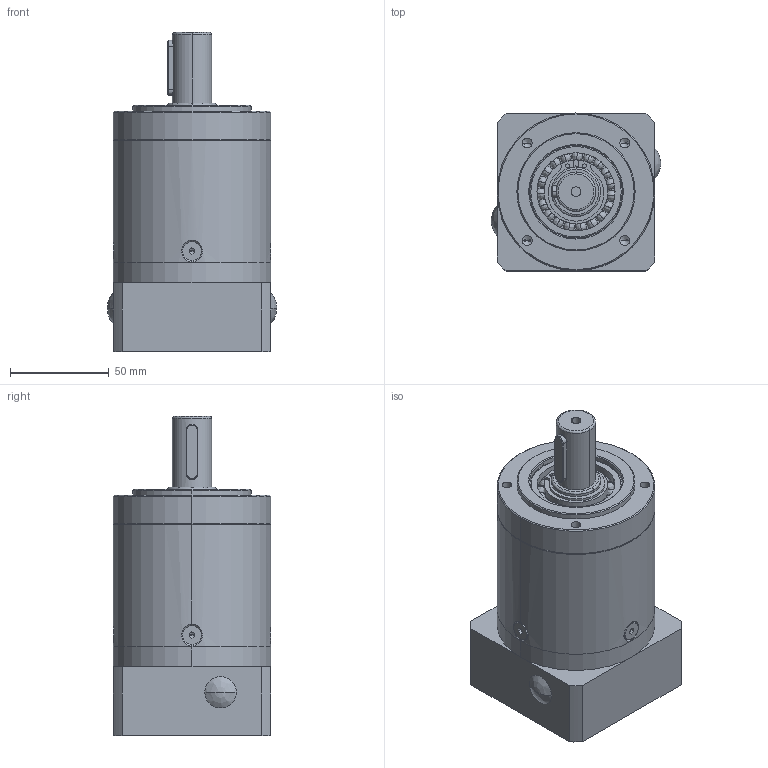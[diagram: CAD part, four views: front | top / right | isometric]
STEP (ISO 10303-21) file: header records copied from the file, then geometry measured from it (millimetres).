
FILE_DESCRIPTION (( 'STEP AP214' ), '1' );
FILE_NAME ('PL80L2-70-19-M5.STEP', '2020-09-12T05:37:16', ( '微软用户' ), ( '微软中国' ), 'SwSTEP 2.0', 'SolidWorks 2014', '' );
FILE_SCHEMA (( 'AUTOMOTIVE_DESIGN' ));
Length unit declared in the file: millimetre
Products named in the file (81): 酗种粣10.347; 小垫片10.4X22.5X0.5; 傻俴陎粣10.347; 堤粣傷裔; 俴陎殤I8; Plain parallel keys_GB_CONNECTING_PIECE_KEYS_CSK 6X28; 黑裔; 菜え22X66X0.5; Circlips for shaft--Type B GB_GB_CONNECTING_PIECE_RINGS_CSB 25; Hexagon socket head cap screws GB_GB_FASTENER_SCREWS_HSHCS M5X16-N; 40怀堤粣; 80怮栠謫I8; Deep groove ball bearings GB_Rolling bearings 6005 GB 276-94; Hexagon socket countersunk head screws GB_GB_FASTENER_SCREWS_HSCHS M5X12-N; 怮栠謫I5; 输入轴; Circlips for holes--Type A GB_GB_CONNECTING_PIECE_RING_RRH 47; Circlips for hole--Type B GB_GB_CONNECTING_PIECE_RINGS_CHB 47; 幗渀粣創; 80两级齿圈; 路燭え66X22; O型圈; 俴陎謫I5; 输入端盖新; 80俴陎謫I8; PL80L2-70-19-M5
Assembly tree (55 placements, depth 2):
  酗种粣10.347
  傻俴陎粣10.347
  小垫片10.4X22.5X0.5
  Plain parallel keys_GB_CONNECTING_PIECE_KEYS_CSK 6X28
  酗种粣10.347
Bounding box: 86 x 80 x 162 mm (x, y, z)
Volume: 538433.9 mm3; surface area: 207764 mm2
Topology: 55 solids, 55 shells, 1241 faces, 3721 edges, 2258 vertices
Faces by surface type: cylinder 422, bspline 352, plane 278, cone 189
Entity records: 28506 total; most frequent: CARTESIAN_POINT 9946, ORIENTED_EDGE 3544, DIRECTION 3374, EDGE_CURVE 1772, AXIS2_PLACEMENT_3D 1412, VERTEX_POINT 1147, CIRCLE 807, EDGE_LOOP 795
